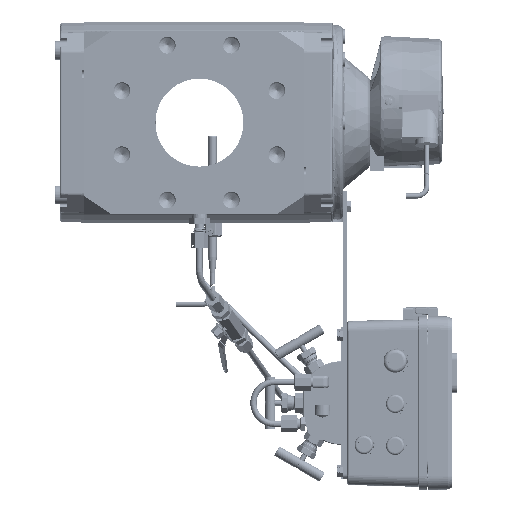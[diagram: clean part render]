
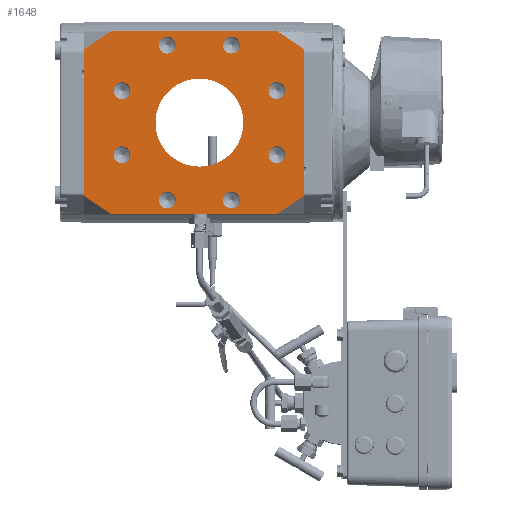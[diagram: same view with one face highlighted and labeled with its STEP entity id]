
A CAD part, left-side view. The second image highlights one B-rep face of the part: STEP entity #1648.
In plain terms, the highlighted planar face has unit normal (-1, 0, 0).
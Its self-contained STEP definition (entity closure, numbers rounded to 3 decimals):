
#1648=ADVANCED_FACE('',(#55652,#55654,#55656,#55658,#55660,#55662,#55664,#55666,
#55668,#55670),#55672,.T.);
#55652=FACE_BOUND('',#55653,.T.);
#55653=EDGE_LOOP('',(#146766,#146767,#146768,#146769,#146770,#146771,#146772,#146773));
#55654=FACE_BOUND('',#55655,.T.);
#55655=EDGE_LOOP('',(#146774));
#55656=FACE_BOUND('',#55657,.T.);
#55657=EDGE_LOOP('',(#146775));
#55658=FACE_BOUND('',#55659,.T.);
#55659=EDGE_LOOP('',(#146776));
#55660=FACE_BOUND('',#55661,.T.);
#55661=EDGE_LOOP('',(#146777));
#55662=FACE_BOUND('',#55663,.T.);
#55663=EDGE_LOOP('',(#146778));
#55664=FACE_BOUND('',#55665,.T.);
#55665=EDGE_LOOP('',(#146779));
#55666=FACE_BOUND('',#55667,.T.);
#55667=EDGE_LOOP('',(#146780));
#55668=FACE_BOUND('',#55669,.T.);
#55669=EDGE_LOOP('',(#146781));
#55670=FACE_BOUND('',#55671,.T.);
#55671=EDGE_LOOP('',(#146782));
#55672=PLANE('',#55673);
#55673=AXIS2_PLACEMENT_3D('',#55674,#55675,#55676);
#55674=CARTESIAN_POINT('',(-85.5,0.,-87.));
#55675=DIRECTION('',(-1.,0.,0.));
#55676=DIRECTION('',(0.,0.,1.));
#146766=ORIENTED_EDGE('',*,*,#178209,.T.);
#146767=ORIENTED_EDGE('',*,*,#178143,.F.);
#146768=ORIENTED_EDGE('',*,*,#178210,.T.);
#146769=ORIENTED_EDGE('',*,*,#178211,.F.);
#146770=ORIENTED_EDGE('',*,*,#178212,.T.);
#146771=ORIENTED_EDGE('',*,*,#178010,.T.);
#146772=ORIENTED_EDGE('',*,*,#178213,.T.);
#146773=ORIENTED_EDGE('',*,*,#178214,.T.);
#146774=ORIENTED_EDGE('',*,*,#178215,.T.);
#146775=ORIENTED_EDGE('',*,*,#178216,.T.);
#146776=ORIENTED_EDGE('',*,*,#178217,.T.);
#146777=ORIENTED_EDGE('',*,*,#178218,.T.);
#146778=ORIENTED_EDGE('',*,*,#177871,.T.);
#146779=ORIENTED_EDGE('',*,*,#178219,.T.);
#146780=ORIENTED_EDGE('',*,*,#178220,.T.);
#146781=ORIENTED_EDGE('',*,*,#178221,.T.);
#146782=ORIENTED_EDGE('',*,*,#178222,.T.);
#177871=EDGE_CURVE('',#191984,#191984,#191985,.F.);
#178010=EDGE_CURVE('',#192253,#192251,#192254,.T.);
#178143=EDGE_CURVE('',#192513,#192515,#192516,.T.);
#178209=EDGE_CURVE('',#192646,#192515,#192647,.T.);
#178210=EDGE_CURVE('',#192513,#192648,#192649,.T.);
#178211=EDGE_CURVE('',#192650,#192648,#192651,.T.);
#178212=EDGE_CURVE('',#192650,#192253,#192652,.T.);
#178213=EDGE_CURVE('',#192251,#192653,#192654,.T.);
#178214=EDGE_CURVE('',#192653,#192646,#192655,.T.);
#178215=EDGE_CURVE('',#192656,#192656,#192657,.T.);
#178216=EDGE_CURVE('',#192658,#192658,#192659,.T.);
#178217=EDGE_CURVE('',#192660,#192660,#192661,.T.);
#178218=EDGE_CURVE('',#192662,#192662,#192663,.T.);
#178219=EDGE_CURVE('',#192664,#192664,#192665,.T.);
#178220=EDGE_CURVE('',#192666,#192666,#192667,.T.);
#178221=EDGE_CURVE('',#192668,#192668,#192669,.T.);
#178222=EDGE_CURVE('',#192670,#192670,#192671,.T.);
#191984=VERTEX_POINT('',#216648);
#191985=CIRCLE('',#216649,42.);
#192251=VERTEX_POINT('',#218037);
#192253=VERTEX_POINT('',#218041);
#192254=LINE('',#218042,#218043);
#192513=VERTEX_POINT('',#218681);
#192515=VERTEX_POINT('',#218685);
#192516=LINE('',#218686,#218687);
#192646=VERTEX_POINT('',#219009);
#192647=LINE('',#219010,#219011);
#192648=VERTEX_POINT('',#219013);
#192649=LINE('',#219014,#219015);
#192650=VERTEX_POINT('',#219017);
#192651=LINE('',#219018,#219019);
#192652=LINE('',#219021,#219022);
#192653=VERTEX_POINT('',#219024);
#192654=LINE('',#219025,#219026);
#192655=LINE('',#219028,#219029);
#192656=VERTEX_POINT('',#219031);
#192657=CIRCLE('',#219032,8.);
#192658=VERTEX_POINT('',#219036);
#192659=CIRCLE('',#219037,8.);
#192660=VERTEX_POINT('',#219041);
#192661=CIRCLE('',#219042,8.);
#192662=VERTEX_POINT('',#219046);
#192663=CIRCLE('',#219047,8.);
#192664=VERTEX_POINT('',#219051);
#192665=CIRCLE('',#219052,8.);
#192666=VERTEX_POINT('',#219056);
#192667=CIRCLE('',#219057,8.);
#192668=VERTEX_POINT('',#219061);
#192669=CIRCLE('',#219062,8.);
#192670=VERTEX_POINT('',#219066);
#192671=CIRCLE('',#219067,8.);
#216648=CARTESIAN_POINT('',(-85.5,100.,-42.));
#216649=AXIS2_PLACEMENT_3D('',#216650,#216651,#216652);
#216650=CARTESIAN_POINT('',(-85.5,100.,0.));
#216651=DIRECTION('',(-1.,0.,0.));
#216652=DIRECTION('',(0.,0.,-1.));
#218037=CARTESIAN_POINT('',(-85.5,0.,70.));
#218041=CARTESIAN_POINT('',(-85.5,0.,-70.));
#218042=CARTESIAN_POINT('',(-85.5,0.,-70.));
#218043=VECTOR('',#218044,1.);
#218044=DIRECTION('',(0.,0.,1.));
#218681=CARTESIAN_POINT('',(-85.5,210.,-70.));
#218685=CARTESIAN_POINT('',(-85.5,210.,70.));
#218686=CARTESIAN_POINT('',(-85.5,210.,-70.));
#218687=VECTOR('',#218688,1.);
#218688=DIRECTION('',(0.,0.,1.));
#219009=CARTESIAN_POINT('',(-85.5,184.512,87.));
#219010=CARTESIAN_POINT('',(-85.5,184.512,87.));
#219011=VECTOR('',#219012,1.);
#219012=DIRECTION('',(0.,0.832,-0.555));
#219013=CARTESIAN_POINT('',(-85.5,184.512,-87.));
#219014=CARTESIAN_POINT('',(-85.5,210.,-70.));
#219015=VECTOR('',#219016,1.);
#219016=DIRECTION('',(0.,-0.832,-0.555));
#219017=CARTESIAN_POINT('',(-85.5,25.488,-87.));
#219018=CARTESIAN_POINT('',(-85.5,25.488,-87.));
#219019=VECTOR('',#219020,1.);
#219020=DIRECTION('',(0.,1.,0.));
#219021=CARTESIAN_POINT('',(-85.5,25.488,-87.));
#219022=VECTOR('',#219023,1.);
#219023=DIRECTION('',(0.,-0.832,0.555));
#219024=CARTESIAN_POINT('',(-85.5,25.488,87.));
#219025=CARTESIAN_POINT('',(-85.5,0.,70.));
#219026=VECTOR('',#219027,1.);
#219027=DIRECTION('',(0.,0.832,0.555));
#219028=CARTESIAN_POINT('',(-85.5,25.488,87.));
#219029=VECTOR('',#219030,1.);
#219030=DIRECTION('',(0.,1.,0.));
#219031=CARTESIAN_POINT('',(-85.5,75.039,-79.55));
#219032=AXIS2_PLACEMENT_3D('',#219033,#219034,#219035);
#219033=CARTESIAN_POINT('',(-85.5,69.382,-73.893));
#219034=DIRECTION('',(1.,0.,0.));
#219035=DIRECTION('',(0.,0.707,-0.707));
#219036=CARTESIAN_POINT('',(-85.5,179.55,-24.961));
#219037=AXIS2_PLACEMENT_3D('',#219038,#219039,#219040);
#219038=CARTESIAN_POINT('',(-85.5,173.893,-30.618));
#219039=DIRECTION('',(1.,0.,0.));
#219040=DIRECTION('',(0.,0.707,0.707));
#219041=CARTESIAN_POINT('',(-85.5,124.961,79.55));
#219042=AXIS2_PLACEMENT_3D('',#219043,#219044,#219045);
#219043=CARTESIAN_POINT('',(-85.5,130.618,73.893));
#219044=DIRECTION('',(1.,0.,0.));
#219045=DIRECTION('',(0.,-0.707,0.707));
#219046=CARTESIAN_POINT('',(-85.5,20.45,24.961));
#219047=AXIS2_PLACEMENT_3D('',#219048,#219049,#219050);
#219048=CARTESIAN_POINT('',(-85.5,26.107,30.618));
#219049=DIRECTION('',(1.,0.,0.));
#219050=DIRECTION('',(0.,-0.707,-0.707));
#219051=CARTESIAN_POINT('',(-85.5,26.1,-38.6));
#219052=AXIS2_PLACEMENT_3D('',#219053,#219054,#219055);
#219053=CARTESIAN_POINT('',(-85.5,26.1,-30.6));
#219054=DIRECTION('',(1.,0.,0.));
#219055=DIRECTION('',(0.,0.,-1.));
#219056=CARTESIAN_POINT('',(-85.5,61.4,73.9));
#219057=AXIS2_PLACEMENT_3D('',#219058,#219059,#219060);
#219058=CARTESIAN_POINT('',(-85.5,69.4,73.9));
#219059=DIRECTION('',(1.,0.,0.));
#219060=DIRECTION('',(0.,-1.,0.));
#219061=CARTESIAN_POINT('',(-85.5,173.9,38.6));
#219062=AXIS2_PLACEMENT_3D('',#219063,#219064,#219065);
#219063=CARTESIAN_POINT('',(-85.5,173.9,30.6));
#219064=DIRECTION('',(1.,0.,0.));
#219065=DIRECTION('',(0.,0.,1.));
#219066=CARTESIAN_POINT('',(-85.5,138.6,-73.9));
#219067=AXIS2_PLACEMENT_3D('',#219068,#219069,#219070);
#219068=CARTESIAN_POINT('',(-85.5,130.6,-73.9));
#219069=DIRECTION('',(1.,0.,0.));
#219070=DIRECTION('',(0.,1.,0.));
